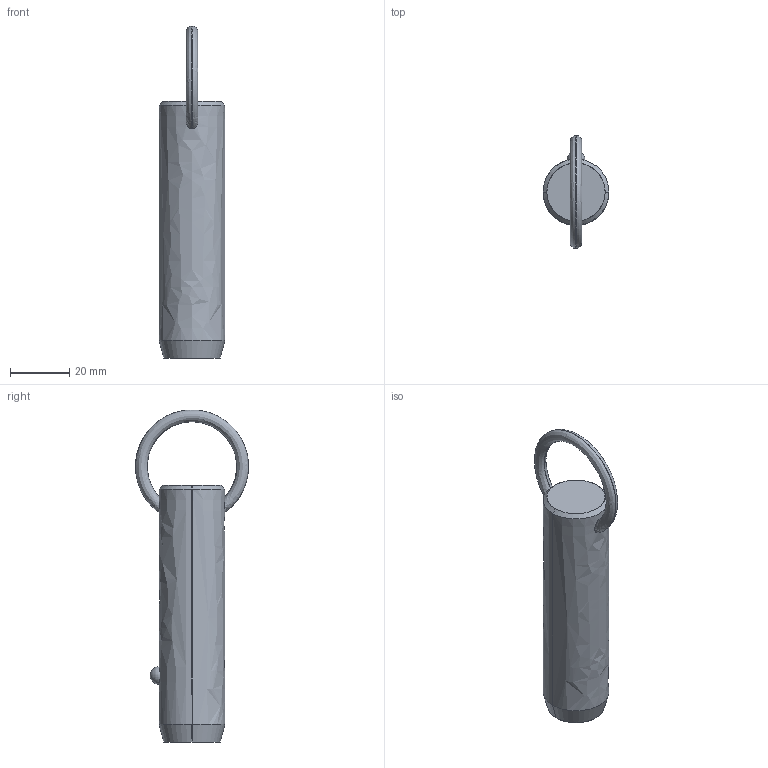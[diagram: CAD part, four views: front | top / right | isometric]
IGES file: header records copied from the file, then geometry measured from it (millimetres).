
Start section: SolidWorks IGES file using analytic representation for surfaces
Global section: file name: C:\Users\liam_\OneDrive\Documents\WORK\Work for WixRoyd\Job Files\J-00019 - Matt Davis CAD Checking\04. CAD Drawings\automotion20190605\P1250.2_v2\P1250.2_v2_20190729_IGES\P1250.087-190.igs; native system: SolidWorks 2017; preprocessor: SolidWorks 2017; author: liam_; date: 190730.000608; units: millimetre
Bounding box: 22.2 x 38.06 x 111.78 mm (x, y, z)
Surface area: 7669.6 mm2 (no closed solid volume)
Topology: 0 solids, 0 shells, 12 faces, 302 edges, 300 vertices
Faces by surface type: revolution 8, bspline 4
